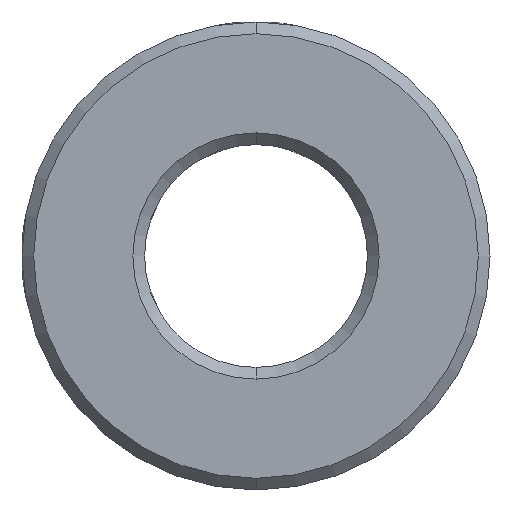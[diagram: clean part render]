
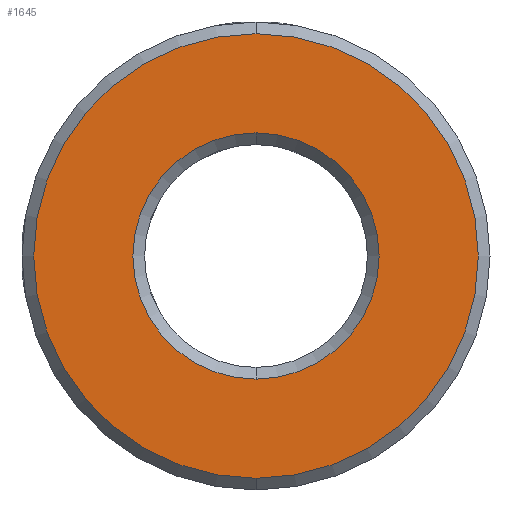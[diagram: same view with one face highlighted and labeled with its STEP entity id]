
A CAD part, front view. The second image highlights one B-rep face of the part: STEP entity #1645.
In plain terms, the highlighted planar face has unit normal (0, -1, 0).
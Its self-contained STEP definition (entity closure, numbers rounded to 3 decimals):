
#39 = CARTESIAN_POINT ( 'NONE',  ( -10.188, -0.277, 0.046 ) ) ;
#169 = DIRECTION ( 'NONE',  ( 0., 0., 1. ) ) ;
#313 = AXIS2_PLACEMENT_3D ( 'NONE', #39, #1909, #2757 ) ;
#398 = CARTESIAN_POINT ( 'NONE',  ( -10.188, -0.277, -5.217 ) ) ;
#399 = VERTEX_POINT ( 'NONE', #976 ) ;
#407 = DIRECTION ( 'NONE',  ( 0., -1., 0. ) ) ;
#417 = DIRECTION ( 'NONE',  ( 0., 0., 1. ) ) ;
#455 = EDGE_CURVE ( 'NONE', #3353, #2050, #2303, .T. ) ;
#535 = ORIENTED_EDGE ( 'NONE', *, *, #1386, .T. ) ;
#552 = CARTESIAN_POINT ( 'NONE',  ( -10.188, -0.277, 0.046 ) ) ;
#608 = CARTESIAN_POINT ( 'NONE',  ( -10.188, -0.277, 0.046 ) ) ;
#655 = CARTESIAN_POINT ( 'NONE',  ( -10.188, -0.277, -9.454 ) ) ;
#862 = FACE_OUTER_BOUND ( 'NONE', #1927, .T. ) ;
#941 = AXIS2_PLACEMENT_3D ( 'NONE', #3123, #1459, #417 ) ;
#976 = CARTESIAN_POINT ( 'NONE',  ( -10.188, -0.277, 5.308 ) ) ;
#1049 = AXIS2_PLACEMENT_3D ( 'NONE', #552, #2485, #1608 ) ;
#1090 = FACE_BOUND ( 'NONE', #1607, .T. ) ;
#1102 = CIRCLE ( 'NONE', #313, 5.262 ) ;
#1210 = AXIS2_PLACEMENT_3D ( 'NONE', #608, #3036, #2490 ) ;
#1256 = AXIS2_PLACEMENT_3D ( 'NONE', #2876, #407, #169 ) ;
#1328 = CIRCLE ( 'NONE', #941, 5.262 ) ;
#1353 = PLANE ( 'NONE',  #1049 ) ;
#1365 = CARTESIAN_POINT ( 'NONE',  ( -10.188, -0.277, 9.546 ) ) ;
#1386 = EDGE_CURVE ( 'NONE', #2050, #3353, #2726, .T. ) ;
#1459 = DIRECTION ( 'NONE',  ( 0., 1., 0. ) ) ;
#1607 = EDGE_LOOP ( 'NONE', ( #3563, #2642 ) ) ;
#1608 = DIRECTION ( 'NONE',  ( 0., 0., 1. ) ) ;
#1645 = ADVANCED_FACE ( 'NONE', ( #862, #1090 ), #1353, .F. ) ;
#1909 = DIRECTION ( 'NONE',  ( 0., 1., 0. ) ) ;
#1927 = EDGE_LOOP ( 'NONE', ( #535, #2887 ) ) ;
#2050 = VERTEX_POINT ( 'NONE', #1365 ) ;
#2153 = EDGE_CURVE ( 'NONE', #2227, #399, #1328, .T. ) ;
#2227 = VERTEX_POINT ( 'NONE', #398 ) ;
#2303 = CIRCLE ( 'NONE', #1256, 9.5 ) ;
#2485 = DIRECTION ( 'NONE',  ( 0., 1., 0. ) ) ;
#2489 = EDGE_CURVE ( 'NONE', #399, #2227, #1102, .T. ) ;
#2490 = DIRECTION ( 'NONE',  ( 0., 0., 1. ) ) ;
#2642 = ORIENTED_EDGE ( 'NONE', *, *, #2489, .T. ) ;
#2726 = CIRCLE ( 'NONE', #1210, 9.5 ) ;
#2757 = DIRECTION ( 'NONE',  ( 0., 0., 1. ) ) ;
#2876 = CARTESIAN_POINT ( 'NONE',  ( -10.188, -0.277, 0.046 ) ) ;
#2887 = ORIENTED_EDGE ( 'NONE', *, *, #455, .T. ) ;
#3036 = DIRECTION ( 'NONE',  ( 0., -1., 0. ) ) ;
#3123 = CARTESIAN_POINT ( 'NONE',  ( -10.188, -0.277, 0.046 ) ) ;
#3353 = VERTEX_POINT ( 'NONE', #655 ) ;
#3563 = ORIENTED_EDGE ( 'NONE', *, *, #2153, .T. ) ;
